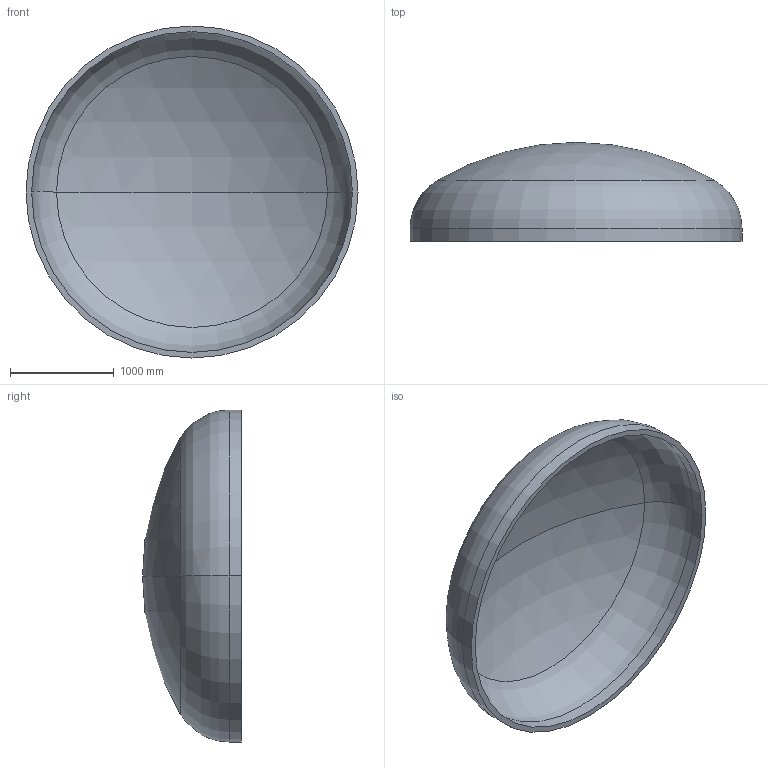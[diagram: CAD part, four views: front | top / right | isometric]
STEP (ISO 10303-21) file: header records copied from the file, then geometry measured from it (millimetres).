
FILE_DESCRIPTION (( 'STEP AP203' ), '1' );
FILE_NAME ('DIN 28013 Korbbogenform_-_Boden DIN 28013 - 3200 x 120 - I - s=54.step', '2016-07-01T18:43:53', ( '' ), ( '' ), 'SwSTEP 2.0', 'SolidWorks 2013', '' );
FILE_SCHEMA (( 'CONFIG_CONTROL_DESIGN' ));
Length unit declared in the file: millimetre
Products named in the file (1): DIN 28013 Korbbogenform_-_Boden DIN 28013 - 3200 x 120 - I - s=54
Bounding box: 3200 x 953.62 x 3200 mm (x, y, z)
Volume: 651632073.7 mm3; surface area: 24674326.4 mm2
Topology: 1 solids, 1 shells, 13 faces, 24 edges, 14 vertices
Faces by surface type: torus 4, cylinder 4, sphere 4, plane 1
Entity records: 407 total; most frequent: DIRECTION 72, CARTESIAN_POINT 52, ORIENTED_EDGE 48, AXIS2_PLACEMENT_3D 34, EDGE_CURVE 24, CIRCLE 20, EDGE_LOOP 14, VERTEX_POINT 14
